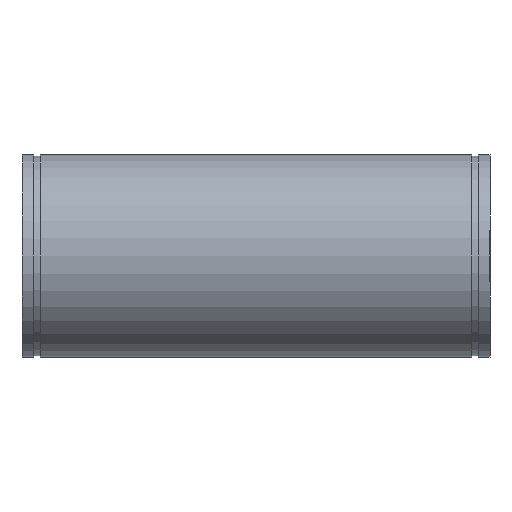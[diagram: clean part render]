
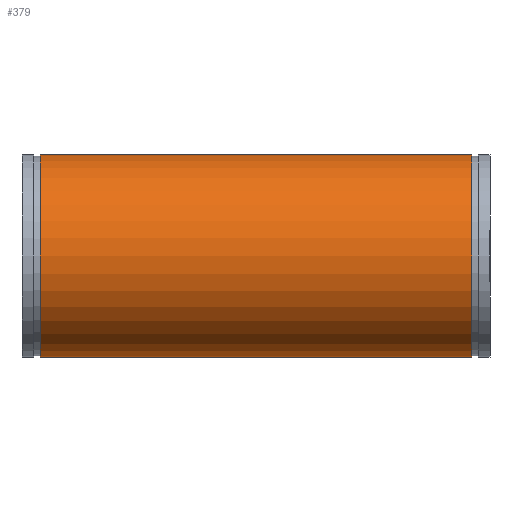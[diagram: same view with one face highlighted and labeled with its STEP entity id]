
A CAD part, left-side view. The second image highlights one B-rep face of the part: STEP entity #379.
In plain terms, the highlighted cylindrical face has radius 203.2 mm (diameter 406.4 mm), a full revolution.
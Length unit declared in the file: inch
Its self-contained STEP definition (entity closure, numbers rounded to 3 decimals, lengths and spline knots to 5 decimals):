
#45=ELLIPSE('',#439,20.90501,8.);
#46=ELLIPSE('',#440,20.90501,8.);
#47=ELLIPSE('',#441,8.65914,8.);
#57=LINE('',#676,#68);
#68=VECTOR('',#544,8.);
#79=CYLINDRICAL_SURFACE('',#438,8.);
#90=FACE_BOUND('',#131,.T.);
#105=FACE_OUTER_BOUND('',#130,.T.);
#130=EDGE_LOOP('',(#292,#293,#294,#295));
#131=EDGE_LOOP('',(#296,#297,#298));
#154=CIRCLE('',#426,8.);
#155=CIRCLE('',#428,8.);
#181=VERTEX_POINT('',#653);
#182=VERTEX_POINT('',#656);
#189=VERTEX_POINT('',#677);
#190=VERTEX_POINT('',#678);
#191=VERTEX_POINT('',#680);
#218=EDGE_CURVE('',#181,#181,#154,.T.);
#219=EDGE_CURVE('',#182,#182,#155,.T.);
#228=EDGE_CURVE('',#181,#182,#57,.T.);
#229=EDGE_CURVE('',#189,#190,#45,.T.);
#230=EDGE_CURVE('',#190,#191,#46,.T.);
#231=EDGE_CURVE('',#191,#189,#47,.T.);
#292=ORIENTED_EDGE('',*,*,#218,.T.);
#293=ORIENTED_EDGE('',*,*,#228,.T.);
#294=ORIENTED_EDGE('',*,*,#219,.T.);
#295=ORIENTED_EDGE('',*,*,#228,.F.);
#296=ORIENTED_EDGE('',*,*,#229,.T.);
#297=ORIENTED_EDGE('',*,*,#230,.T.);
#298=ORIENTED_EDGE('',*,*,#231,.T.);
#379=ADVANCED_FACE('',(#105,#90),#79,.T.);
#426=AXIS2_PLACEMENT_3D('',#654,#516,#517);
#428=AXIS2_PLACEMENT_3D('',#657,#520,#521);
#438=AXIS2_PLACEMENT_3D('',#675,#542,#543);
#439=AXIS2_PLACEMENT_3D('',#679,#545,#546);
#440=AXIS2_PLACEMENT_3D('',#681,#547,#548);
#441=AXIS2_PLACEMENT_3D('',#682,#549,#550);
#516=DIRECTION('center_axis',(0.,1.,0.));
#517=DIRECTION('ref_axis',(1.,0.,0.));
#520=DIRECTION('center_axis',(0.,-1.,0.));
#521=DIRECTION('ref_axis',(1.,0.,0.));
#542=DIRECTION('center_axis',(0.,-1.,0.));
#543=DIRECTION('ref_axis',(1.,0.,0.));
#544=DIRECTION('',(0.,1.,0.));
#545=DIRECTION('center_axis',(-0.924,0.383,0.));
#546=DIRECTION('ref_axis',(-0.383,-0.924,0.));
#547=DIRECTION('center_axis',(-0.924,0.383,0.));
#548=DIRECTION('ref_axis',(-0.383,-0.924,0.));
#549=DIRECTION('center_axis',(-0.383,-0.924,0.));
#550=DIRECTION('ref_axis',(0.924,-0.383,0.));
#653=CARTESIAN_POINT('',(-8.,-6.562,0.));
#654=CARTESIAN_POINT('Origin',(0.,-6.562,0.));
#656=CARTESIAN_POINT('',(-8.,27.562,0.));
#657=CARTESIAN_POINT('Origin',(0.,27.562,0.));
#675=CARTESIAN_POINT('Origin',(0.,29.,0.));
#676=CARTESIAN_POINT('',(-8.,29.,0.));
#677=CARTESIAN_POINT('',(0.,0.,8.));
#678=CARTESIAN_POINT('',(8.,19.31371,0.));
#679=CARTESIAN_POINT('Origin',(0.,0.,0.));
#680=CARTESIAN_POINT('',(0.,0.,-8.));
#681=CARTESIAN_POINT('Origin',(0.,0.,0.));
#682=CARTESIAN_POINT('Origin',(0.,0.,
0.));
